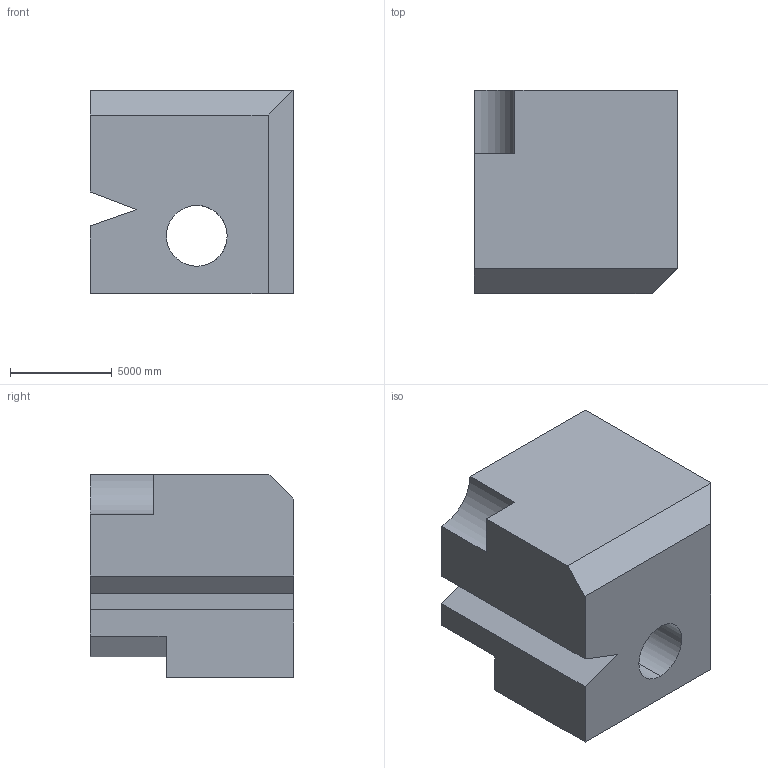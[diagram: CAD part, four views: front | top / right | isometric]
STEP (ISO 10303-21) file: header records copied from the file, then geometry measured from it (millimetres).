
FILE_DESCRIPTION (( 'STEP AP203' ), '1' );
FILE_NAME ('1632.STEP', '2022-08-26T13:18:55', ( 'user' ), ( '' ), 'SwSTEP 2.0', 'SolidWorks 2021', '' );
FILE_SCHEMA (( 'CONFIG_CONTROL_DESIGN' ));
Length unit declared in the file: centimetre
Products named in the file (1): 1632
Bounding box: 10000 x 10000 x 10000 mm (x, y, z)
Volume: 824061768125.2 mm3; surface area: 666283684.5 mm2
Topology: 1 solids, 1 shells, 25 faces, 71 edges, 47 vertices
Faces by surface type: plane 20, cylinder 5
Entity records: 891 total; most frequent: CARTESIAN_POINT 144, ORIENTED_EDGE 142, DIRECTION 136, EDGE_CURVE 71, VECTOR 58, LINE 58, VERTEX_POINT 47, AXIS2_PLACEMENT_3D 39
